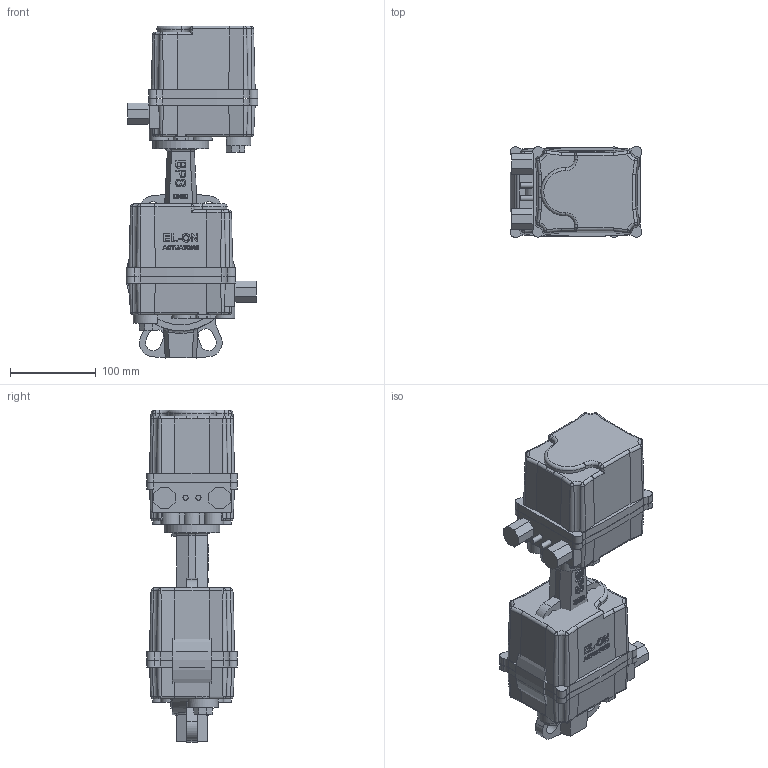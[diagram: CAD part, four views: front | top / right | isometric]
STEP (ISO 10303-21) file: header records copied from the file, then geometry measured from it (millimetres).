
FILE_DESCRIPTION( ( 'Unknown' ), '1' );
FILE_NAME( 'R:/ECCUA/ROOTSI BPS 3D vidinad/Poordklapid Wafer type/Butterfly valve(wafer) with electric actuator BPS/STEP formaat/BPS 2303080E butterfly valve DN80.stp', 'Unknown', ( 'Unknown' ), ( 'Unknown' ), 'PSStep 10.1', 'Unknown', ' ' );
FILE_SCHEMA( ( 'AUTOMOTIVE_DESIGN { 1 0 10303 214 1 1 1 1 }' ) );
Length unit declared in the file: millimetre
Products named in the file (4): Assem1; Butterfly valve wafer type DN80 BPS; BPS 8005058 electric actuator DN40-100
Bounding box: 153 x 105.49 x 386.16 mm (x, y, z)
Volume: 4165178.6 mm3; surface area: 413482.8 mm2
Topology: 6 solids, 6 shells, 1114 faces, 2910 edges, 1880 vertices
Faces by surface type: plane 390, cylinder 266, extrusion 264, cone 84, bspline 72, torus 38
Full cylindrical faces by diameter (mm): 4.134 x16, 4.917 x8, 6 x4, 6.647 x8, 7 x8, 65 x2, 80 x2, 113 x4, 127 x2
Entity records: 29360 total; most frequent: CARTESIAN_POINT 11957, ORIENTED_EDGE 2712, DIRECTION 2341, EDGE_CURVE 1356, VERTEX_POINT 919, VECTOR 847, AXIS2_PLACEMENT_3D 747, LINE 715
